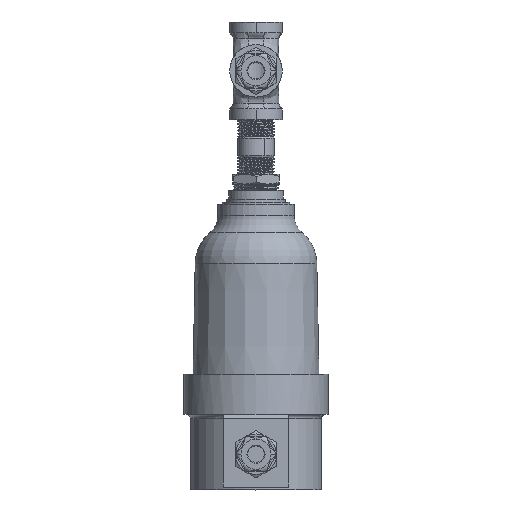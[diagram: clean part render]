
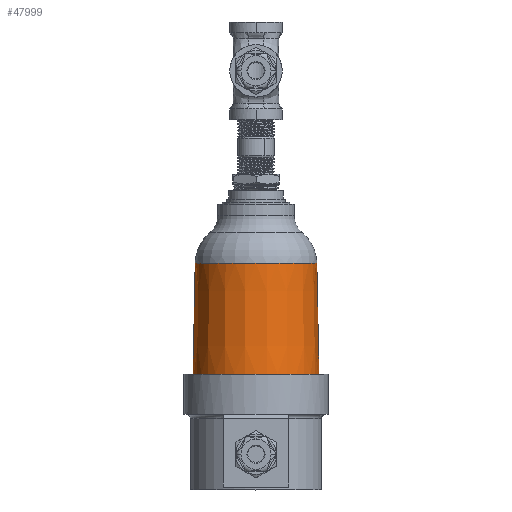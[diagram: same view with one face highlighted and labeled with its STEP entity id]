
A CAD part, top view. The second image highlights one B-rep face of the part: STEP entity #47999.
In plain terms, the highlighted conical face has half-angle 1.103 degrees and reference radius 35.373 mm.
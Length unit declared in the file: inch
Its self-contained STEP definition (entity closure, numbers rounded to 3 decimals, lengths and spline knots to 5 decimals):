
#4164 = DIRECTION ( 'NONE',  ( 1., 0., 0. ) ) ;
#6996 = DIRECTION ( 'NONE',  ( 1., 0., 0. ) ) ;
#8743 = CARTESIAN_POINT ( 'NONE',  ( -1.39263, 2.53601, 0. ) ) ;
#9903 = EDGE_CURVE ( 'NONE', #58029, #28353, #24542, .T. ) ;
#12246 = EDGE_CURVE ( 'NONE', #22319, #28353, #44367, .T. ) ;
#13221 = LINE ( 'NONE', #8743, #50963 ) ;
#14662 = VERTEX_POINT ( 'NONE', #48578 ) ;
#16583 = DIRECTION ( 'NONE',  ( 0., 1., 0. ) ) ;
#18253 = EDGE_CURVE ( 'NONE', #14662, #58029, #13221, .T. ) ;
#20466 = AXIS2_PLACEMENT_3D ( 'NONE', #41228, #46163, #6996 ) ;
#22319 = VERTEX_POINT ( 'NONE', #32809 ) ;
#22673 = FACE_OUTER_BOUND ( 'NONE', #38362, .T. ) ;
#23377 = DIRECTION ( 'NONE',  ( -0.019, -1., 0. ) ) ;
#24542 = CIRCLE ( 'NONE', #43953, 1.44146 ) ;
#26953 = ORIENTED_EDGE ( 'NONE', *, *, #9903, .T. ) ;
#28062 = CONICAL_SURFACE ( 'NONE', #20466, 1.39263, 0.019 ) ;
#28353 = VERTEX_POINT ( 'NONE', #51250 ) ;
#32128 = DIRECTION ( 'NONE',  ( 0.019, -1., 0. ) ) ;
#32463 = EDGE_CURVE ( 'NONE', #14662, #22319, #34966, .T. ) ;
#32809 = CARTESIAN_POINT ( 'NONE',  ( 1.39263, 2.53601, 0. ) ) ;
#33672 = DIRECTION ( 'NONE',  ( 0., 1., 0. ) ) ;
#34966 = CIRCLE ( 'NONE', #51457, 1.39263 ) ;
#36864 = CARTESIAN_POINT ( 'NONE',  ( 1.39263, 2.53601, 0. ) ) ;
#38362 = EDGE_LOOP ( 'NONE', ( #52622, #50160, #26953, #41447 ) ) ;
#41228 = CARTESIAN_POINT ( 'NONE',  ( 0., 2.53601, 0. ) ) ;
#41447 = ORIENTED_EDGE ( 'NONE', *, *, #12246, .F. ) ;
#43953 = AXIS2_PLACEMENT_3D ( 'NONE', #63070, #33672, #4164 ) ;
#44367 = LINE ( 'NONE', #36864, #57413 ) ;
#46088 = CARTESIAN_POINT ( 'NONE',  ( 0., 2.53601, 0. ) ) ;
#46163 = DIRECTION ( 'NONE',  ( 0., -1., 0. ) ) ;
#47999 = ADVANCED_FACE ( 'NONE', ( #22673 ), #28062, .T. ) ;
#48578 = CARTESIAN_POINT ( 'NONE',  ( -1.39263, 2.53601, 0. ) ) ;
#49101 = CARTESIAN_POINT ( 'NONE',  ( -1.44146, 0., 0. ) ) ;
#50160 = ORIENTED_EDGE ( 'NONE', *, *, #18253, .T. ) ;
#50963 = VECTOR ( 'NONE', #23377, 39.37008 ) ;
#51016 = DIRECTION ( 'NONE',  ( -1., 0., 0. ) ) ;
#51250 = CARTESIAN_POINT ( 'NONE',  ( 1.44146, 0., 0. ) ) ;
#51457 = AXIS2_PLACEMENT_3D ( 'NONE', #46088, #16583, #51016 ) ;
#52622 = ORIENTED_EDGE ( 'NONE', *, *, #32463, .F. ) ;
#57413 = VECTOR ( 'NONE', #32128, 39.37008 ) ;
#58029 = VERTEX_POINT ( 'NONE', #49101 ) ;
#63070 = CARTESIAN_POINT ( 'NONE',  ( 0., 0., 0. ) ) ;
